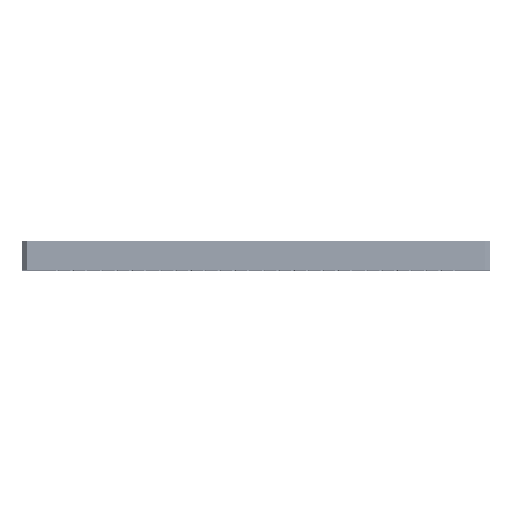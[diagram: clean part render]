
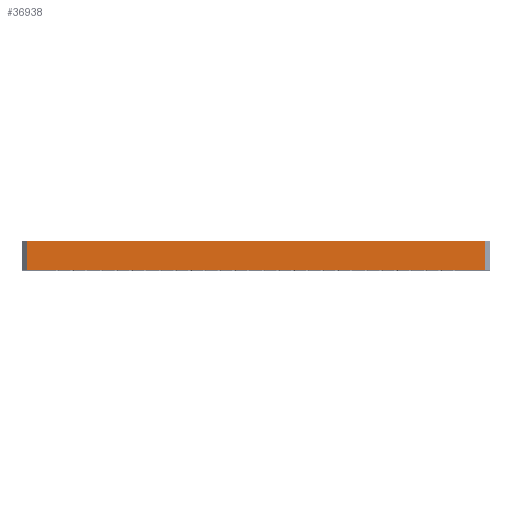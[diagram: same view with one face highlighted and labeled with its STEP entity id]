
A CAD part, top view. The second image highlights one B-rep face of the part: STEP entity #36938.
In plain terms, the highlighted planar face has unit normal (0, 0, 1).
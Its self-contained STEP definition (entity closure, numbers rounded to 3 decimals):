
#2962=PLANE('',#42851);
#5912=FACE_OUTER_BOUND('',#10038,.T.);
#10038=EDGE_LOOP('',(#32211,#32212,#32213,#32214));
#11816=LINE('',#66446,#13310);
#11824=LINE('',#66461,#13318);
#11826=LINE('',#66465,#13320);
#11827=LINE('',#66467,#13321);
#13310=VECTOR('',#56103,10.);
#13318=VECTOR('',#56117,10.);
#13320=VECTOR('',#56121,10.);
#13321=VECTOR('',#56124,10.);
#19212=VERTEX_POINT('',#66443);
#19213=VERTEX_POINT('',#66445);
#19217=VERTEX_POINT('',#66459);
#19218=VERTEX_POINT('',#66463);
#23640=EDGE_CURVE('',#19213,#19212,#11816,.T.);
#23648=EDGE_CURVE('',#19217,#19212,#11824,.T.);
#23650=EDGE_CURVE('',#19213,#19218,#11826,.T.);
#23651=EDGE_CURVE('',#19218,#19217,#11827,.T.);
#32211=ORIENTED_EDGE('',*,*,#23648,.F.);
#32212=ORIENTED_EDGE('',*,*,#23651,.F.);
#32213=ORIENTED_EDGE('',*,*,#23650,.F.);
#32214=ORIENTED_EDGE('',*,*,#23640,.T.);
#36938=ADVANCED_FACE('',(#5912),#2962,.T.);
#42851=AXIS2_PLACEMENT_3D('',#66466,#56122,#56123);
#56103=DIRECTION('',(1.,0.,0.));
#56117=DIRECTION('',(0.,-1.,0.));
#56121=DIRECTION('',(0.,1.,0.));
#56122=DIRECTION('center_axis',(0.,0.,1.));
#56123=DIRECTION('ref_axis',(1.,0.,0.));
#56124=DIRECTION('',(1.,0.,0.));
#66443=CARTESIAN_POINT('',(303.032,0.,201.658));
#66445=CARTESIAN_POINT('',(-86.468,0.,201.658));
#66446=CARTESIAN_POINT('',(-90.468,0.,201.658));
#66459=CARTESIAN_POINT('',(303.032,25.,201.658));
#66461=CARTESIAN_POINT('',(303.032,0.,201.658));
#66463=CARTESIAN_POINT('',(-86.468,25.,201.658));
#66465=CARTESIAN_POINT('',(-86.468,0.,201.658));
#66466=CARTESIAN_POINT('Origin',(-90.468,0.,201.658));
#66467=CARTESIAN_POINT('',(-90.468,25.,201.658));
